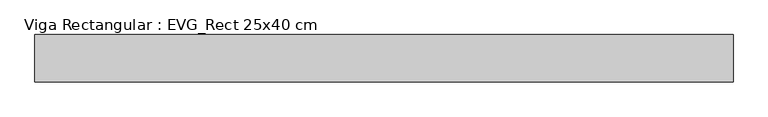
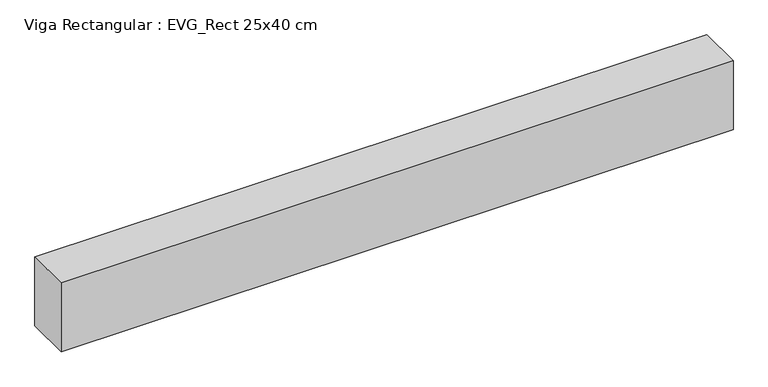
"""IFC4 building model written with IfcOpenShell, lengths in millimetres: beam geometry, Viga Rectangular : EVG_Rect 25x40 cm."""

from ifc_helpers import new_model, si_unit, frame, origin, place, context, project, spatial, polyline, outline, extrude, source, transform, mapped, element, save


def viga_rectangular_evg_rect_25x40_cm_da4bb42e(model_context):
    return source(origin(), model_context, "Body", "SweptSolid", [
        extrude(outline(polyline([(1912.5, 125.0), (1912.5, -125.0), (-1787.5, -125.0), (-1787.5, 125.0), (1912.5, 125.0)])), frame((0.0, 0.0, -400.0), z_axis=(0.0, 0.0, 1.0), x_axis=(1.0, 0.0, 0.0)), (0.0, 0.0, 1.0), 400.0),
    ])


if __name__ == "__main__":
    model = new_model("IFC4")
    model_context = context("Model", 3, world=origin())
    ifc_project = project(units=[si_unit("LENGTHUNIT", "METRE", prefix="MILLI")], contexts=[model_context])
    site = spatial("IfcSite", under=ifc_project)
    building = spatial("IfcBuilding", under=site)
    placement = place(None, origin())
    viga_rectangular_evg_rect_25x40_cm_shape = viga_rectangular_evg_rect_25x40_cm_da4bb42e(model_context)
    element("IfcBeam", 1, ObjectType="Viga Rectangular : EVG_Rect 25x40 cm", at=placement, inside=building, context=model_context, shape_type="MappedRepresentation", body=[
        mapped(viga_rectangular_evg_rect_25x40_cm_shape, transform((0.0, 0.0, 0.0), x_axis=(1.0, 0.0, 0.0), y_axis=(0.0, 1.0, 0.0), z_axis=(0.0, 0.0, 1.0))),
    ])
    save(model, "model.ifc")
